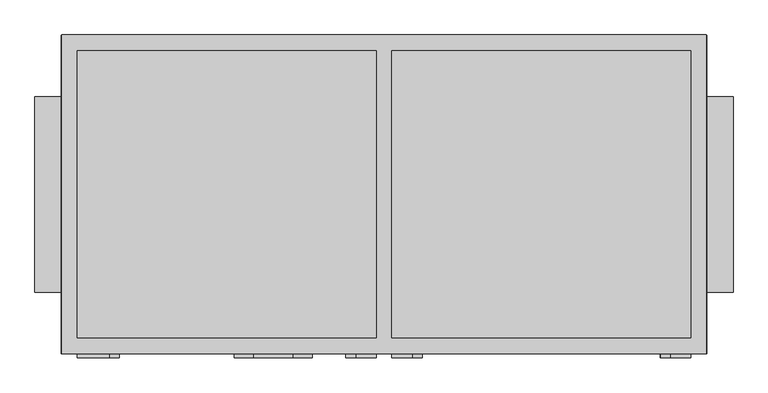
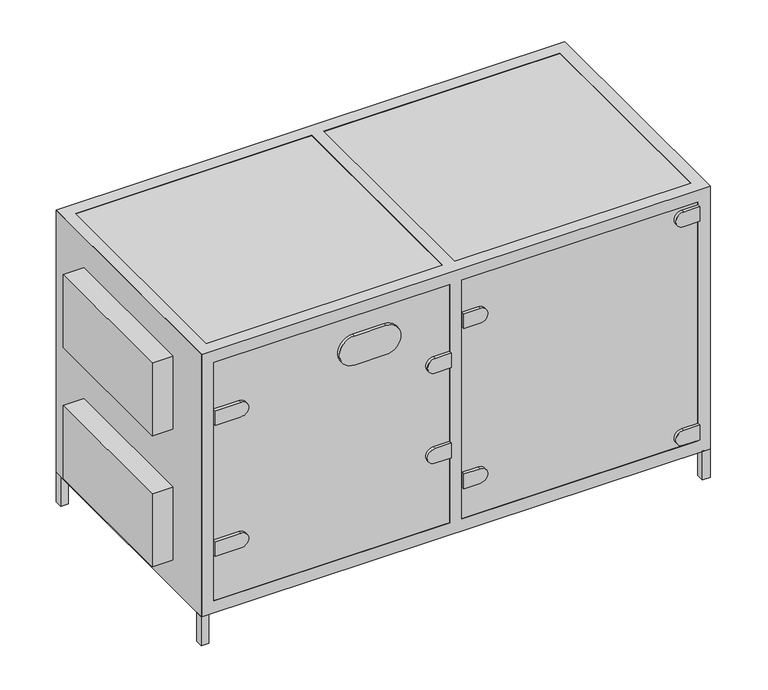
"""IFC4 building model written with IfcOpenShell, lengths in millimetres: proxy geometry, AVS 2200...3800-S-RC(RG)-R : AVS 2200-S-RG-R."""

from ifc_helpers import new_model, si_unit, point, frame, frame_2d, origin, origin_with_axes, place, context, project, spatial, polyline, circle_curve, trimmed, segment, composite_curve, outline, extrude, faceted_brep, source, transform, mapped, element, save


def mechanical_equipment_750895ba(model_context):
    return source(origin(), model_context, "Body", "SolidModel", [
        extrude(outline(polyline([(800.0, 407.0), (825.0, 407.0), (825.0, 382.0), (800.0, 382.0), (800.0, 407.0)])), origin_with_axes(), (0.0, 0.0, 1.0), 100.0),
        extrude(outline(polyline([(800.0, -407.0), (800.0, -382.0), (825.0, -382.0), (825.0, -407.0), (800.0, -407.0)])), origin_with_axes(), (0.0, 0.0, 1.0), 100.0),
        extrude(outline(polyline([(-825.0, 382.0), (-825.0, 407.0), (-800.0, 407.0), (-800.0, 382.0), (-825.0, 382.0)])), origin_with_axes(), (0.0, 0.0, 1.0), 100.0),
        extrude(outline(polyline([(-825.0, -382.0), (-800.0, -382.0), (-800.0, -407.0), (-825.0, -407.0), (-825.0, -382.0)])), origin_with_axes(), (0.0, 0.0, 1.0), 100.0),
        faceted_brep([(824.0, 408.0, 999.0), (-824.0, 408.0, 999.0), (-824.0, -408.0, 999.0), (824.0, -408.0, 999.0), (785.0, 367.0, 999.0), (785.0, -367.0, 999.0), (20.0, -367.0, 999.0), (20.0, 367.0, 999.0), (-785.0, 367.0, 999.0), (-20.0, 367.0, 999.0), (-20.0, -367.0, 999.0), (-785.0, -367.0, 999.0), (824.0, 408.0, 99.0), (824.0, -408.0, 99.0), (-824.0, -408.0, 99.0), (-824.0, 408.0, 99.0), (785.0, -367.0, 99.0), (785.0, 367.0, 99.0), (20.0, 367.0, 99.0), (20.0, -367.0, 99.0), (-20.0, 367.0, 99.0), (-785.0, 367.0, 99.0), (-785.0, -367.0, 99.0), (-20.0, -367.0, 99.0), (-20.0, 408.0, 958.0), (-785.0, 408.0, 958.0), (-785.0, 408.0, 140.0), (-20.0, 408.0, 140.0), (785.0, 408.0, 140.0), (785.0, 408.0, 958.0), (20.0, 408.0, 958.0), (20.0, 408.0, 140.0), (-824.0, -367.0, 958.0), (-824.0, -367.0, 140.0), (-824.0, 367.0, 140.0), (-824.0, 367.0, 958.0), (-785.0, -408.0, 958.0), (-20.0, -408.0, 958.0), (-20.0, -408.0, 140.0), (-785.0, -408.0, 140.0), (785.0, -408.0, 958.0), (785.0, -408.0, 140.0), (20.0, -408.0, 140.0), (20.0, -408.0, 958.0), (824.0, -367.0, 140.0), (824.0, -367.0, 958.0), (824.0, 367.0, 958.0), (824.0, 367.0, 140.0), (-785.0, 367.0, 958.0), (-20.0, 367.0, 958.0), (-20.0, 367.0, 140.0), (-785.0, 367.0, 140.0), (-20.0, -367.0, 958.0), (-785.0, -367.0, 958.0), (-785.0, -367.0, 140.0), (-20.0, -367.0, 140.0), (785.0, 367.0, 958.0), (785.0, -367.0, 958.0), (785.0, -367.0, 140.0), (785.0, 367.0, 140.0), (20.0, 367.0, 958.0), (20.0, -367.0, 958.0), (20.0, -367.0, 140.0), (20.0, 367.0, 140.0)], [[[0, 1, 2, 3], [4, 5, 6, 7], [8, 9, 10, 11]], [[12, 13, 14, 15], [16, 17, 18, 19], [20, 21, 22, 23]], [[1, 0, 12, 15], [24, 25, 26, 27], [28, 29, 30, 31]], [[2, 1, 15, 14], [32, 33, 34, 35]], [[3, 2, 14, 13], [36, 37, 38, 39], [40, 41, 42, 43]], [[0, 3, 13, 12], [44, 45, 46, 47]], [[9, 8, 48, 49]], [[21, 20, 50, 51]], [[11, 10, 52, 53]], [[23, 22, 54, 55]], [[5, 4, 56, 57]], [[17, 16, 58, 59]], [[40, 57, 58, 41]], [[56, 29, 28, 59]], [[35, 48, 53, 32]], [[45, 57, 56, 46]], [[49, 60, 61, 52]], [[51, 34, 33, 54]], [[47, 59, 58, 44]], [[55, 62, 63, 50]], [[36, 53, 52, 37]], [[24, 49, 48, 25]], [[54, 39, 38, 55]], [[50, 27, 26, 51]], [[32, 53, 54, 33]], [[52, 61, 62, 55]], [[44, 58, 57, 45]], [[48, 35, 34, 51]], [[60, 49, 50, 63]], [[59, 47, 46, 56]], [[8, 11, 53, 48]], [[22, 21, 51, 54]], [[53, 36, 39, 54]], [[25, 48, 51, 26]], [[10, 9, 49, 52]], [[20, 23, 55, 50]], [[37, 52, 55, 38]], [[49, 24, 27, 50]], [[4, 7, 60, 56]], [[18, 17, 59, 63]], [[7, 6, 61, 60]], [[19, 18, 63, 62]], [[30, 60, 63, 31]], [[61, 43, 42, 62]], [[57, 40, 43, 61]], [[29, 56, 60, 30]], [[41, 58, 62, 42]], [[59, 28, 31, 63]], [[6, 5, 57, 61]], [[16, 19, 62, 58]]]),
        extrude(outline(polyline([(-825.0, 407.0), (825.0, 407.0), (825.0, -407.0), (-825.0, -407.0), (-825.0, 407.0)])), frame((0.0, 0.0, 100.0), z_axis=(0.0, 0.0, 1.0), x_axis=(1.0, 0.0, 0.0)), (0.0, 0.0, 1.0), 898.0),
        extrude(outline(composite_curve([segment(polyline([(798.5, -702.2895396), (798.5, -785.0), (748.5, -785.0), (748.5, -702.2895396)]), True, "CONTINUOUS"), segment(trimmed(circle_curve(frame_2d((773.5, -702.2895396)), 25.0), [point((748.5, -702.2895396))], [point((798.5, -702.2895396))], False, "CARTESIAN"), True, "CONTINUOUS")], self_intersect=False)), frame((0.0, -418.0, 0.0), z_axis=(0.0, 1.0, 0.0), x_axis=(0.0, 0.0, 1.0)), (0.0, 0.0, 1.0), 11.0),
        extrude(outline(composite_curve([segment(polyline([(349.5, -702.2895396), (349.5, -785.0), (299.5, -785.0), (299.5, -702.2895396)]), True, "CONTINUOUS"), segment(trimmed(circle_curve(frame_2d((324.5, -702.2895396)), 25.0), [point((299.5, -702.2895396))], [point((349.5, -702.2895396))], False, "CARTESIAN"), True, "CONTINUOUS")], self_intersect=False)), frame((0.0, -418.0, 0.0), z_axis=(0.0, 1.0, 0.0), x_axis=(0.0, 0.0, 1.0)), (0.0, 0.0, 1.0), 11.0),
        extrude(outline(composite_curve([segment(trimmed(circle_curve(frame_2d((703.5, -72.7104604)), 25.0), [point((728.5, -72.7104604))], [point((678.5, -72.7104604))], False, "CARTESIAN"), True, "CONTINUOUS"), segment(polyline([(678.5, -72.7104604), (678.5, -20.0), (728.5, -20.0), (728.5, -72.7104604)]), True, "CONTINUOUS")], self_intersect=False)), frame((0.0, -418.0, 0.0), z_axis=(0.0, 1.0, 0.0), x_axis=(0.0, 0.0, 1.0)), (0.0, 0.0, 1.0), 11.0),
        extrude(outline(composite_curve([segment(polyline([(369.5, -72.7104604), (369.5, -20.0), (419.5, -20.0), (419.5, -72.7104604)]), True, "CONTINUOUS"), segment(trimmed(circle_curve(frame_2d((394.5, -72.7104604)), 25.0), [point((419.5, -72.7104604))], [point((369.5, -72.7104604))], False, "CARTESIAN"), True, "CONTINUOUS")], self_intersect=False)), frame((0.0, -418.0, 0.0), z_axis=(0.0, 1.0, 0.0), x_axis=(0.0, 0.0, 1.0)), (0.0, 0.0, 1.0), 11.0),
        extrude(outline(composite_curve([segment(trimmed(circle_curve(frame_2d((923.5, 732.2895396)), 25.0), [point((948.5, 732.2895396))], [point((898.5, 732.2895396))], False, "CARTESIAN"), True, "CONTINUOUS"), segment(polyline([(898.5, 732.2895396), (898.5, 785.0), (948.5, 785.0), (948.5, 732.2895396)]), True, "CONTINUOUS")], self_intersect=False)), frame((0.0, -418.0, 0.0), z_axis=(0.0, 1.0, 0.0), x_axis=(0.0, 0.0, 1.0)), (0.0, 0.0, 1.0), 11.0),
        extrude(outline(composite_curve([segment(polyline([(149.5, 732.2895396), (149.5, 785.0), (199.5, 785.0), (199.5, 732.2895396)]), True, "CONTINUOUS"), segment(trimmed(circle_curve(frame_2d((174.5, 732.2895396)), 25.0), [point((199.5, 732.2895396))], [point((149.5, 732.2895396))], False, "CARTESIAN"), True, "CONTINUOUS")], self_intersect=False)), frame((0.0, -418.0, 0.0), z_axis=(0.0, 1.0, 0.0), x_axis=(0.0, 0.0, 1.0)), (0.0, 0.0, 1.0), 11.0),
        extrude(outline(composite_curve([segment(polyline([(848.5, 72.7104604), (848.5, 20.0), (798.5, 20.0), (798.5, 72.7104604)]), True, "CONTINUOUS"), segment(trimmed(circle_curve(frame_2d((823.5, 72.7104604)), 25.0), [point((798.5, 72.7104604))], [point((848.5, 72.7104604))], False, "CARTESIAN"), True, "CONTINUOUS")], self_intersect=False)), frame((0.0, -418.0, 0.0), z_axis=(0.0, 1.0, 0.0), x_axis=(0.0, 0.0, 1.0)), (0.0, 0.0, 1.0), 11.0),
        extrude(outline(composite_curve([segment(trimmed(circle_curve(frame_2d((274.5, 72.7104604)), 25.0), [point((249.5, 72.7104604))], [point((299.5, 72.7104604))], False, "CARTESIAN"), True, "CONTINUOUS"), segment(polyline([(299.5, 72.7104604), (299.5, 20.0), (249.5, 20.0), (249.5, 72.7104604)]), True, "CONTINUOUS")], self_intersect=False)), frame((0.0, -418.0, 0.0), z_axis=(0.0, 1.0, 0.0), x_axis=(0.0, 0.0, 1.0)), (0.0, 0.0, 1.0), 11.0),
        extrude(outline(composite_curve([segment(polyline([(897.4531077, -233.4249776), (897.4531077, -333.4249776)]), True, "CONTINUOUS"), segment(trimmed(circle_curve(frame_2d((847.4531077, -333.4249776)), 50.0), [point((897.4531077, -333.4249776))], [point((797.4531077, -333.4249776))], False, "CARTESIAN"), True, "CONTINUOUS"), segment(polyline([(797.4531077, -333.4249776), (797.4531077, -233.4249776)]), True, "CONTINUOUS"), segment(trimmed(circle_curve(frame_2d((847.4531077, -233.4249776)), 50.0), [point((797.4531077, -233.4249776))], [point((897.4531077, -233.4249776))], False, "CARTESIAN"), True, "CONTINUOUS")], self_intersect=False)), frame((0.0, -418.0, 0.0), z_axis=(0.0, 1.0, 0.0), x_axis=(0.0, 0.0, 1.0)), (0.0, 0.0, 1.0), 11.0),
        extrude(outline(polyline([(-893.0, -250.0), (-893.0, 250.0), (-825.0, 250.0), (-825.0, -250.0), (-893.0, -250.0)])), frame((0.0, 0.0, 648.5), z_axis=(0.0, 0.0, 1.0), x_axis=(1.0, 0.0, 0.0)), (0.0, 0.0, 1.0), 250.0),
        extrude(outline(polyline([(-893.0, -250.0), (-893.0, 250.0), (-825.0, 250.0), (-825.0, -250.0), (-893.0, -250.0)])), frame((0.0, 0.0, 199.5), z_axis=(0.0, 0.0, 1.0), x_axis=(1.0, 0.0, 0.0)), (0.0, 0.0, 1.0), 250.0),
        extrude(outline(polyline([(893.0, 250.0), (893.0, -250.0), (825.0, -250.0), (825.0, 250.0), (893.0, 250.0)])), frame((0.0, 0.0, 648.5), z_axis=(0.0, 0.0, 1.0), x_axis=(1.0, 0.0, 0.0)), (0.0, 0.0, 1.0), 250.0),
        extrude(outline(polyline([(893.0, 250.0), (893.0, -250.0), (825.0, -250.0), (825.0, 250.0), (893.0, 250.0)])), frame((0.0, 0.0, 199.5), z_axis=(0.0, 0.0, 1.0), x_axis=(1.0, 0.0, 0.0)), (0.0, 0.0, 1.0), 250.0),
    ])


if __name__ == "__main__":
    model = new_model("IFC4")
    model_context = context("Model", 3, world=origin())
    ifc_project = project(units=[si_unit("LENGTHUNIT", "METRE", prefix="MILLI")], contexts=[model_context])
    site = spatial("IfcSite", under=ifc_project)
    building = spatial("IfcBuilding", under=site)
    placement = place(None, origin())
    mechanical_equipment_shape = mechanical_equipment_750895ba(model_context)
    element("IfcBuildingElementProxy", 1, Name="AVS 2200...3800-S-RC(RG)-R : AVS 2200-S-RG-R", ObjectType="AVS 2200...3800-S-RC(RG)-R : AVS 2200-S-RG-R", at=placement, inside=building, context=model_context, shape_type="MappedRepresentation", body=[
        mapped(mechanical_equipment_shape, transform((0.0, 0.0, 0.0), x_axis=(1.0, 0.0, 0.0), y_axis=(0.0, 1.0, 0.0), z_axis=(0.0, 0.0, 1.0))),
    ])
    save(model, "model.ifc")
